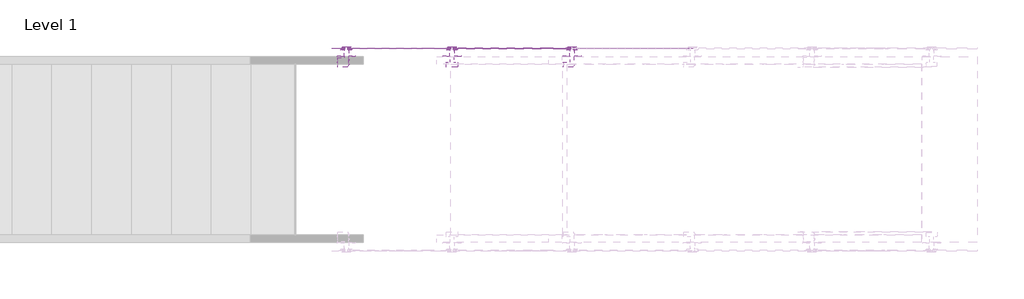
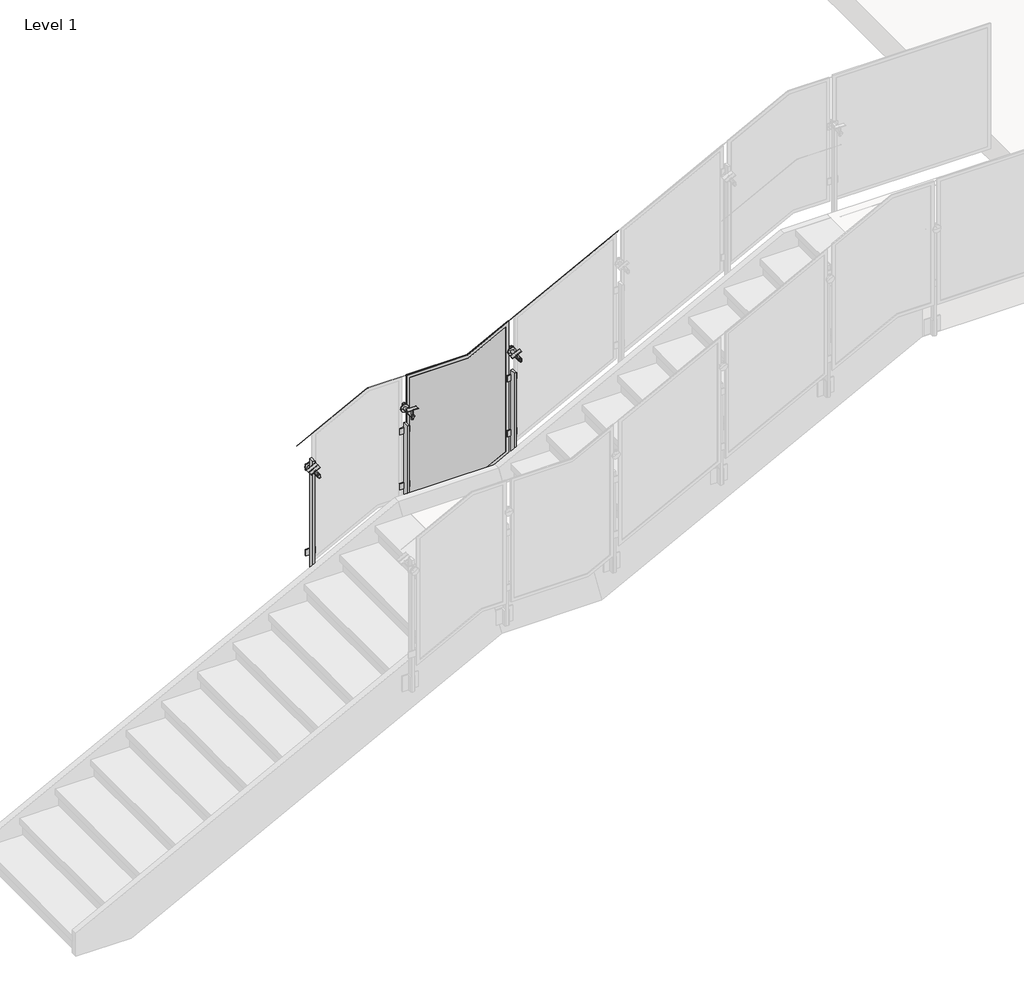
# One storey, part 18 of 28: 2 railings.
"""IFC4 building model written with IfcOpenShell, lengths in millimetres."""

from ifc_helpers import new_model, si_unit, point, frame, frame_2d, origin, place, context, project, spatial, polyline, circle_curve, ellipse_curve, trimmed, segment, composite_curve, outline, extrude, transform, mapped, element, save
from ifc_brep_helpers import plane_surface, cylinder_surface, advanced_brep
from components import standard_pp01_723a6c8f

model = new_model("IFC4")

# Units and contexts
model_context = context("Model", 3, world=origin())
ifc_project = project(units=[si_unit("LENGTHUNIT", "METRE", prefix="MILLI")], contexts=[model_context])

# Site, building, storey
site = spatial("IfcSite", under=ifc_project)
building = spatial("IfcBuilding", under=site)
storey = spatial("IfcBuildingStorey", under=building, Name="Level 1", Elevation=0.0)

# Railings
placement = place(None, origin())
element("IfcRailing", 1, ObjectType="Metal-Panel-VIVA-STRUC-Fascia-Stairs-Landing", at=placement, inside=storey, context=model_context, shape_type="SolidModel", body=[
    advanced_brep(
    [(-16484.3313244, -2552.3953206, 2533.6638324), (-16484.3313244, -2551.3953206, 2533.6638324), (-15931.7592018, -2552.3953206, 2820.7142857), (-15931.7592018, -2551.3953206, 2820.7142857), (-15144.3592018, -2552.3953206, 2820.7142857), (-15144.3592018, -2551.3953206, 2820.7142857), (-13959.1395244, -2552.3953206, 3436.4128194), (-13959.1395244, -2551.3953206, 3436.4128194)],
    [
        (0, 1, ellipse_curve(frame((-16484.3313244, -2551.8953206, 2533.6638324), z_axis=(-1.0, 0.0, 0.0), x_axis=(0.0, 0.0, -1.0)), 0.5634403, 0.5)),
        (1, 0, ellipse_curve(frame((-16484.3313244, -2551.8953206, 2533.6638324), z_axis=(-1.0, 0.0, 0.0), x_axis=(0.0, 0.0, -1.0)), 0.5634403, 0.5)),
        (0, 2),
        (2, 3, ellipse_curve(frame((-15931.7592018, -2551.8953206, 2820.7142857), z_axis=(-0.9714436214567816, 0.0, -0.23727050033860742), x_axis=(0.23727050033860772, 0.0, -0.9714436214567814)), 0.5146979, 0.5)),
        (3, 1),
        (3, 2, ellipse_curve(frame((-15931.7592018, -2551.8953206, 2820.7142857), z_axis=(-0.9714436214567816, 0.0, -0.23727050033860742), x_axis=(0.23727050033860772, 0.0, -0.9714436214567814)), 0.5146979, 0.5)),
        (2, 4),
        (4, 5, ellipse_curve(frame((-15144.3592018, -2551.8953206, 2820.7142857), z_axis=(-0.9714436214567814, 0.0, -0.2372705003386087), x_axis=(-0.23727050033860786, 0.0, 0.9714436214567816)), 0.5146979, 0.5)),
        (5, 3),
        (5, 4, ellipse_curve(frame((-15144.3592018, -2551.8953206, 2820.7142857), z_axis=(-0.9714436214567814, 0.0, -0.2372705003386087), x_axis=(-0.23727050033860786, 0.0, 0.9714436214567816)), 0.5146979, 0.5)),
        (6, 7, ellipse_curve(frame((-13959.1395244, -2551.8953206, 3436.4128194), z_axis=(1.0, 0.0, 0.0), x_axis=(0.0, 0.0, -1.0)), 0.5634403, 0.5)),
        (7, 6, ellipse_curve(frame((-13959.1395244, -2551.8953206, 3436.4128194), z_axis=(1.0, 0.0, 0.0), x_axis=(0.0, 0.0, -1.0)), 0.5634403, 0.5)),
        (4, 6),
        (7, 5),
    ],
    [
        plane_surface(frame((-16484.3313244, -2551.8953206, 2534.2272727), z_axis=(-1.0, 0.0, 0.0), x_axis=(0.0, 1.0, 0.0))),
        cylinder_surface(frame((-16484.1008295, -2551.8953206, 2533.78357), z_axis=(-0.8874054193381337, 0.0, -0.46098982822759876), x_axis=(0.0, 1.0, 0.0)), 0.5),
        cylinder_surface(frame((-15931.8813244, -2551.8953206, 2820.7142857), z_axis=(-1.0, 0.0, 0.0), x_axis=(0.0, 1.0, 0.0)), 0.5),
        plane_surface(frame((-13959.1395244, -2551.8953206, 3436.9762597), z_axis=(1.0, 0.0, 0.0), x_axis=(0.0, 1.0, 0.0))),
        cylinder_surface(frame((-15144.2508295, -2551.8953206, 2820.770583), z_axis=(-0.8874054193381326, 0.0, -0.46098982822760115), x_axis=(0.0, 1.0, 0.0)), 0.5),
    ],
    [
        (0, [[1, 2]]),
        (1, [[-1, 3, 4, 5]]),
        (1, [[-2, -5, 6, -3]]),
        (2, [[-4, 7, 8, 9]]),
        (2, [[-6, -9, 10, -7]]),
        (3, [[11, 12]]),
        (4, [[-8, 13, -12, 14]]),
        (4, [[-10, -14, -11, -13]]),
    ],
),
    extrude(outline(composite_curve([segment(trimmed(circle_curve(frame_2d((19.0451472, -1e-07)), 22.0448871), [point((-2.9997401, 0.0))], [point((24.3499072, 21.3971159))], False, "CARTESIAN"), True, "CONTINUOUS"), segment(polyline([(24.3499072, 21.3971159), (23.6280664, 18.4855208)]), True, "CONTINUOUS"), segment(trimmed(circle_curve(frame_2d((19.0451472, -1e-07)), 19.0451471), [point((23.6280664, 18.4855208))], [point((0.0, 0.0))], True, "CARTESIAN"), True, "CONTINUOUS"), segment(polyline([(0.0, 0.0), (-2.9997401, 0.0)]), True, "CONTINUOUS")], self_intersect=False)), frame((-14863.3578349, -2650.6589206, 2771.6798072), z_axis=(0.8874054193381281, 0.0, 0.4609898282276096), x_axis=(-0.2840545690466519, -0.7876022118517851, 0.5468050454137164)), (0.0, 0.0, 1.0), 79.1184357),
    advanced_brep(
    [(-14788.4729468, -2665.6589206, 2713.3400434), (-14788.4729468, -2658.5151706, 2713.3400434), (-14788.4729468, -2672.8026706, 2713.3400434), (-14824.3321931, -2658.5151706, 2782.3690925), (-14824.3321931, -2665.6589206, 2782.3690925), (-14824.3321931, -2672.8026706, 2782.3690925)],
    [
        (0, 1),
        (1, 2, circle_curve(frame((-14788.4729468, -2665.6589206, 2713.3400434), z_axis=(0.4609898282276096, 0.0, -0.8874054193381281), x_axis=(0.0, -1.0, 0.0)), 7.14375)),
        (2, 0),
        (3, 4),
        (4, 5),
        (5, 3, circle_curve(frame((-14824.3321931, -2665.6589206, 2782.3690925), z_axis=(-0.4609898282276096, 0.0, 0.8874054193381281), x_axis=(0.0, -1.0, 0.0)), 7.14375)),
        (2, 1, circle_curve(frame((-14788.4729468, -2665.6589206, 2713.3400434), z_axis=(0.4609898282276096, 0.0, -0.8874054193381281), x_axis=(0.0, -1.0, 0.0)), 7.14375)),
        (3, 5, circle_curve(frame((-14824.3321931, -2665.6589206, 2782.3690925), z_axis=(-0.4609898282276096, 0.0, 0.8874054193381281), x_axis=(0.0, -1.0, 0.0)), 7.14375)),
        (1, 3),
        (5, 2),
    ],
    [
        plane_surface(frame((-14788.4729468, -2665.6589206, 2713.3400434), z_axis=(0.4609898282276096, 0.0, -0.8874054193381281), x_axis=(0.0, -1.0, 0.0))),
        plane_surface(frame((-14824.3321931, -2665.6589206, 2782.3690925), z_axis=(-0.4609898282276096, 0.0, 0.8874054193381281), x_axis=(0.0, -1.0, 0.0))),
        cylinder_surface(frame((-14671.5187469, -2665.6589206, 2488.2032087), z_axis=(0.4609898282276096, 0.0, -0.8874054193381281), x_axis=(0.0, -1.0, 0.0)), 7.14375),
    ],
    [
        (0, [[1, 2, 3]]),
        (1, [[4, 5, 6]]),
        (0, [[-3, 7, -1]]),
        (1, [[-5, -4, 8]]),
        (2, [[9, -6, 10, -2]]),
        (2, [[-10, -8, -9, -7]]),
    ],
),
    advanced_brep(
    [(-14774.1037585, -2546.9139206, 2751.1092161), (-14795.2351, -2546.9139206, 2740.1318958), (-14806.5051488, -2546.9139206, 2734.277325), (-14827.6364904, -2546.9139206, 2723.3000047), (-14774.1037585, -2538.9764206, 2751.1092161), (-14827.6364904, -2538.9764206, 2723.3000047), (-14774.1037585, -2564.3764206, 2751.1092161), (-14789.6000756, -2564.3764206, 2743.0591812), (-14812.1401733, -2564.3764206, 2731.3500396), (-14827.6364904, -2564.3764206, 2723.3000047), (-14774.1037585, -2556.4389206, 2751.1092161), (-14827.6364904, -2556.4389206, 2723.3000047), (-14800.8701244, -2538.9764206, 2737.2046104), (-14789.6000756, -2676.3776643, 2743.0591812), (-14800.8701244, -2676.3776643, 2737.2046104), (-14812.1401733, -2676.3776643, 2731.3500396), (-14795.2351, -2556.4389206, 2740.1318958), (-14806.5051488, -2556.4389206, 2734.277325)],
    [
        (0, 1),
        (1, 2, circle_curve(frame((-14800.8701244, -2546.9139206, 2737.2046104), z_axis=(0.0, 1.0, 0.0), x_axis=(-0.8874054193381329, 0.0, -0.4609898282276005)), 6.35)),
        (2, 3),
        (3, 0, circle_curve(frame((-14800.8701244, -2546.9139206, 2737.2046104), z_axis=(0.0, -1.0, 0.0), x_axis=(-0.8874054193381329, 0.0, -0.4609898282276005)), 30.1625)),
        (4, 0),
        (3, 5),
        (5, 4, circle_curve(frame((-14800.8701244, -2538.9764206, 2737.2046104), z_axis=(0.0, -1.0, 0.0), x_axis=(-0.8874054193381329, 0.0, -0.4609898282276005)), 30.1625)),
        (6, 7),
        (7, 8, circle_curve(frame((-14800.8701244, -2564.3764206, 2737.2046104), z_axis=(0.0, 1.0, 0.0), x_axis=(-0.8874054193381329, 0.0, -0.4609898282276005)), 12.7)),
        (8, 9),
        (9, 6, circle_curve(frame((-14800.8701244, -2564.3764206, 2737.2046104), z_axis=(0.0, -1.0, 0.0), x_axis=(-0.8874054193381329, 0.0, -0.4609898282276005)), 30.1625)),
        (10, 6),
        (9, 11),
        (11, 10, circle_curve(frame((-14800.8701244, -2556.4389206, 2737.2046104), z_axis=(0.0, -1.0, 0.0), x_axis=(-0.8874054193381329, 0.0, -0.4609898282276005)), 30.1625)),
        (3, 0, circle_curve(frame((-14800.8701244, -2546.9139206, 2737.2046104), z_axis=(0.0, 1.0, 0.0), x_axis=(-0.8874054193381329, 0.0, -0.4609898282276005)), 30.1625)),
        (4, 5, circle_curve(frame((-14800.8701244, -2538.9764206, 2737.2046104), z_axis=(0.0, -1.0, 0.0), x_axis=(-0.8874054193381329, 0.0, -0.4609898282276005)), 30.1625)),
        (12, 4),
        (5, 12),
        (13, 14),
        (14, 15),
        (15, 13, circle_curve(frame((-14800.8701244, -2676.3776643, 2737.2046104), z_axis=(0.0, -1.0, 0.0), x_axis=(-0.8874054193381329, 0.0, -0.4609898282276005)), 12.7)),
        (13, 15, circle_curve(frame((-14800.8701244, -2676.3776643, 2737.2046104), z_axis=(0.0, -1.0, 0.0), x_axis=(-0.8874054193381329, 0.0, -0.4609898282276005)), 12.7)),
        (7, 13),
        (15, 8),
        (7, 8, circle_curve(frame((-14800.8701244, -2564.3764206, 2737.2046104), z_axis=(0.0, -1.0, 0.0), x_axis=(-0.8874054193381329, 0.0, -0.4609898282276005)), 12.7)),
        (6, 9, circle_curve(frame((-14800.8701244, -2564.3764206, 2737.2046104), z_axis=(0.0, -1.0, 0.0), x_axis=(-0.8874054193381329, 0.0, -0.4609898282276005)), 30.1625)),
        (10, 11, circle_curve(frame((-14800.8701244, -2556.4389206, 2737.2046104), z_axis=(0.0, -1.0, 0.0), x_axis=(-0.8874054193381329, 0.0, -0.4609898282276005)), 30.1625)),
        (16, 10),
        (11, 17),
        (17, 16, circle_curve(frame((-14800.8701244, -2556.4389206, 2737.2046104), z_axis=(0.0, -1.0, 0.0), x_axis=(-0.8874054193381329, 0.0, -0.4609898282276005)), 6.35)),
        (16, 17, circle_curve(frame((-14800.8701244, -2556.4389206, 2737.2046104), z_axis=(0.0, -1.0, 0.0), x_axis=(-0.8874054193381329, 0.0, -0.4609898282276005)), 6.35)),
        (1, 16),
        (17, 2),
        (1, 2, circle_curve(frame((-14800.8701244, -2546.9139206, 2737.2046104), z_axis=(0.0, -1.0, 0.0), x_axis=(-0.8874054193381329, 0.0, -0.4609898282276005)), 6.35)),
    ],
    [
        plane_surface(frame((-14800.8701244, -2546.9139206, 2737.2046104), z_axis=(0.0, -1.0, 0.0), x_axis=(-0.8874054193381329, 0.0, -0.4609898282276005))),
        cylinder_surface(frame((-14800.8701244, -1032.4389206, 2737.2046104), z_axis=(0.0, 1.0, 0.0), x_axis=(-0.8874054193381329, 0.0, -0.4609898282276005)), 30.1625),
        plane_surface(frame((-14800.8701244, -2564.3764206, 2737.2046104), z_axis=(0.0, -1.0, 0.0), x_axis=(-0.8874054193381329, 0.0, -0.4609898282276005))),
        plane_surface(frame((-14800.8701244, -2538.9764206, 2737.2046104), z_axis=(0.0, 1.0, 0.0), x_axis=(-0.8874054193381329, 0.0, -0.4609898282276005))),
        plane_surface(frame((-14800.8701244, -2676.3776643, 2737.2046104), z_axis=(0.0, -1.0, 0.0), x_axis=(-0.8874054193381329, 0.0, -0.4609898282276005))),
        cylinder_surface(frame((-14800.8701244, -1032.4389206, 2737.2046104), z_axis=(0.0, 1.0, 0.0), x_axis=(-0.8874054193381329, 0.0, -0.4609898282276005)), 12.7),
        plane_surface(frame((-14800.8701244, -2556.4389206, 2737.2046104), z_axis=(0.0, 1.0, 0.0), x_axis=(-0.8874054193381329, 0.0, -0.4609898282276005))),
        cylinder_surface(frame((-14800.8701244, -1032.4389206, 2737.2046104), z_axis=(0.0, 1.0, 0.0), x_axis=(-0.8874054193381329, 0.0, -0.4609898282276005)), 6.35),
    ],
    [
        (0, [[1, 2, 3, 4]]),
        (1, [[5, -4, 6, 7]]),
        (2, [[8, 9, 10, 11]]),
        (1, [[12, -11, 13, 14]]),
        (1, [[-6, 15, -5, 16]]),
        (3, [[17, -7, 18]]),
        (3, [[-18, -16, -17]]),
        (4, [[19, 20, 21]]),
        (4, [[-20, -19, 22]]),
        (5, [[23, -21, 24, -9]]),
        (5, [[-24, -22, -23, 25]]),
        (2, [[-10, -25, -8, 26]]),
        (1, [[-13, -26, -12, 27]]),
        (6, [[28, -14, 29, 30]]),
        (6, [[-29, -27, -28, 31]]),
        (7, [[32, -30, 33, -2]]),
        (7, [[-33, -31, -32, 34]]),
        (0, [[-3, -34, -1, -15]]),
    ],
),
    extrude(outline(polyline([(-14838.9708437, -2563.5509206), (-14838.9708437, -2556.4389206), (-14762.7694052, -2556.4389206), (-14762.7694052, -2563.5509206), (-14838.9708437, -2563.5509206)])), frame((0.0, 0.0, 2495.8221429), z_axis=(0.0, 0.0, 1.0), x_axis=(1.0, 0.0, 0.0)), (0.0, 0.0, 1.0), 50.8),
    extrude(outline(polyline([(-14838.9708437, -2563.5509206), (-14838.9708437, -2556.4389206), (-14762.7694052, -2556.4389206), (-14762.7694052, -2563.5509206), (-14838.9708437, -2563.5509206)])), frame((0.0, 0.0, 2038.6221429), z_axis=(0.0, 0.0, 1.0), x_axis=(1.0, 0.0, 0.0)), (0.0, 0.0, 1.0), 50.8),
    extrude(outline(polyline([(-14792.9347161, -2569.3929206), (-14784.9337161, -2569.3929206), (-14784.9337161, -2603.1749206), (-14737.3741945, -2603.1749206), (-14737.3741945, -2611.3029206), (-14792.9347161, -2611.3029206), (-14792.9347161, -2569.3929206)])), frame((0.0, 0.0, 1743.2709429), z_axis=(0.0, 0.0, 1.0), x_axis=(1.0, 0.0, 0.0)), (0.0, 0.0, 1.0), 127.0),
    extrude(outline(polyline([(-14808.8097161, -2569.3929206), (-14808.8097161, -2611.3029206), (-14864.3702376, -2611.3029206), (-14864.3702376, -2603.1749206), (-14816.8107161, -2603.1749206), (-14816.8107161, -2569.3929206), (-14808.8097161, -2569.3929206)])), frame((0.0, 0.0, 1743.2709429), z_axis=(0.0, 0.0, 1.0), x_axis=(1.0, 0.0, 0.0)), (0.0, 0.0, 1.0), 127.0),
    extrude(outline(polyline([(-14808.8097161, -2608.0009206), (-14808.8097161, -2563.5509206), (-14792.9305328, -2563.5509206), (-14792.9305328, -2608.0009206), (-14808.8097161, -2608.0009206)])), frame((0.0, 0.0, 1743.2709429), z_axis=(0.0, 0.0, 1.0), x_axis=(1.0, 0.0, 0.0)), (0.0, 0.0, 1.0), 842.9752),
    extrude(outline(composite_curve([segment(trimmed(circle_curve(frame_2d((-2665.6589206, 2629.8402766)), 22.0448871), [point((-2648.2963187, 2616.2565693))], [point((-2683.0215224, 2616.2565693))], False, "CARTESIAN"), True, "CONTINUOUS"), segment(polyline([(-2683.0215224, 2616.2565693), (-2680.6589206, 2618.1049611)]), True, "CONTINUOUS"), segment(trimmed(circle_curve(frame_2d((-2665.6589206, 2629.8402766)), 19.0451471), [point((-2680.6589206, 2618.1049611))], [point((-2650.6589206, 2618.1049611))], True, "CARTESIAN"), True, "CONTINUOUS"), segment(polyline([(-2650.6589206, 2618.1049611), (-2648.2963187, 2616.2565693)]), True, "CONTINUOUS")], self_intersect=False)), frame((-15682.1599423, 0.0, 0.0), z_axis=(1.0, 0.0, 0.0), x_axis=(0.0, 1.0, 0.0)), (0.0, 0.0, 1.0), 79.1184357),
    advanced_brep(
    [(-15642.6007244, -2665.6589206, 2531.8127669), (-15642.6007244, -2658.5151706, 2531.8127669), (-15642.6007244, -2672.8026706, 2531.8127669), (-15642.6007244, -2658.5151706, 2609.6002669), (-15642.6007244, -2665.6589206, 2609.6002669), (-15642.6007244, -2672.8026706, 2609.6002669)],
    [
        (0, 1),
        (1, 2, circle_curve(frame((-15642.6007244, -2665.6589206, 2531.8127669), z_axis=(0.0, 0.0, -1.0), x_axis=(0.0, -1.0, 0.0)), 7.14375)),
        (2, 0),
        (3, 4),
        (4, 5),
        (5, 3, circle_curve(frame((-15642.6007244, -2665.6589206, 2609.6002669), z_axis=(0.0, 0.0, 1.0), x_axis=(0.0, -1.0, 0.0)), 7.14375)),
        (2, 1, circle_curve(frame((-15642.6007244, -2665.6589206, 2531.8127669), z_axis=(0.0, 0.0, -1.0), x_axis=(0.0, -1.0, 0.0)), 7.14375)),
        (3, 5, circle_curve(frame((-15642.6007244, -2665.6589206, 2609.6002669), z_axis=(0.0, 0.0, 1.0), x_axis=(0.0, -1.0, 0.0)), 7.14375)),
        (1, 3),
        (5, 2),
    ],
    [
        plane_surface(frame((-15642.6007244, -2665.6589206, 2531.8127669), z_axis=(0.0, 0.0, -1.0), x_axis=(0.0, -1.0, 0.0))),
        plane_surface(frame((-15642.6007244, -2665.6589206, 2609.6002669), z_axis=(0.0, 0.0, 1.0), x_axis=(0.0, -1.0, 0.0))),
        cylinder_surface(frame((-15642.6007244, -2665.6589206, 2278.1104231), z_axis=(0.0, 0.0, -1.0), x_axis=(0.0, -1.0, 0.0)), 7.14375),
    ],
    [
        (0, [[1, 2, 3]]),
        (1, [[4, 5, 6]]),
        (0, [[-3, 7, -1]]),
        (1, [[-5, -4, 8]]),
        (2, [[9, -6, 10, -2]]),
        (2, [[-10, -8, -9, -7]]),
    ],
),
    advanced_brep(
    [(-15612.4382244, -2546.9139206, 2558.7052857), (-15636.2507244, -2546.9139206, 2558.7052857), (-15648.9507244, -2546.9139206, 2558.7052857), (-15672.7632244, -2546.9139206, 2558.7052857), (-15612.4382244, -2538.9764206, 2558.7052857), (-15672.7632244, -2538.9764206, 2558.7052857), (-15612.4382244, -2564.3764206, 2558.7052857), (-15629.9007244, -2564.3764206, 2558.7052857), (-15655.3007244, -2564.3764206, 2558.7052857), (-15672.7632244, -2564.3764206, 2558.7052857), (-15612.4382244, -2556.4389206, 2558.7052857), (-15672.7632244, -2556.4389206, 2558.7052857), (-15642.6007244, -2538.9764206, 2558.7052857), (-15629.9007244, -2676.3776643, 2558.7052857), (-15642.6007244, -2676.3776643, 2558.7052857), (-15655.3007244, -2676.3776643, 2558.7052857), (-15636.2507244, -2556.4389206, 2558.7052857), (-15648.9507244, -2556.4389206, 2558.7052857)],
    [
        (0, 1),
        (1, 2, circle_curve(frame((-15642.6007244, -2546.9139206, 2558.7052857), z_axis=(0.0, 1.0, 0.0), x_axis=(-1.0, 0.0, 0.0)), 6.35)),
        (2, 3),
        (3, 0, circle_curve(frame((-15642.6007244, -2546.9139206, 2558.7052857), z_axis=(0.0, -1.0, 0.0), x_axis=(-1.0, 0.0, 0.0)), 30.1625)),
        (4, 0),
        (3, 5),
        (5, 4, circle_curve(frame((-15642.6007244, -2538.9764206, 2558.7052857), z_axis=(0.0, -1.0, 0.0), x_axis=(-1.0, 0.0, 0.0)), 30.1625)),
        (6, 7),
        (7, 8, circle_curve(frame((-15642.6007244, -2564.3764206, 2558.7052857), z_axis=(0.0, 1.0, 0.0), x_axis=(-1.0, 0.0, 0.0)), 12.7)),
        (8, 9),
        (9, 6, circle_curve(frame((-15642.6007244, -2564.3764206, 2558.7052857), z_axis=(0.0, -1.0, 0.0), x_axis=(-1.0, 0.0, 0.0)), 30.1625)),
        (10, 6),
        (9, 11),
        (11, 10, circle_curve(frame((-15642.6007244, -2556.4389206, 2558.7052857), z_axis=(0.0, -1.0, 0.0), x_axis=(-1.0, 0.0, 0.0)), 30.1625)),
        (3, 0, circle_curve(frame((-15642.6007244, -2546.9139206, 2558.7052857), z_axis=(0.0, 1.0, 0.0), x_axis=(-1.0, 0.0, 0.0)), 30.1625)),
        (4, 5, circle_curve(frame((-15642.6007244, -2538.9764206, 2558.7052857), z_axis=(0.0, -1.0, 0.0), x_axis=(-1.0, 0.0, 0.0)), 30.1625)),
        (12, 4),
        (5, 12),
        (13, 14),
        (14, 15),
        (15, 13, circle_curve(frame((-15642.6007244, -2676.3776643, 2558.7052857), z_axis=(0.0, -1.0, 0.0), x_axis=(-1.0, 0.0, 0.0)), 12.7)),
        (13, 15, circle_curve(frame((-15642.6007244, -2676.3776643, 2558.7052857), z_axis=(0.0, -1.0, 0.0), x_axis=(-1.0, 0.0, 0.0)), 12.7)),
        (7, 13),
        (15, 8),
        (7, 8, circle_curve(frame((-15642.6007244, -2564.3764206, 2558.7052857), z_axis=(0.0, -1.0, 0.0), x_axis=(-1.0, 0.0, 0.0)), 12.7)),
        (6, 9, circle_curve(frame((-15642.6007244, -2564.3764206, 2558.7052857), z_axis=(0.0, -1.0, 0.0), x_axis=(-1.0, 0.0, 0.0)), 30.1625)),
        (10, 11, circle_curve(frame((-15642.6007244, -2556.4389206, 2558.7052857), z_axis=(0.0, -1.0, 0.0), x_axis=(-1.0, 0.0, 0.0)), 30.1625)),
        (16, 10),
        (11, 17),
        (17, 16, circle_curve(frame((-15642.6007244, -2556.4389206, 2558.7052857), z_axis=(0.0, -1.0, 0.0), x_axis=(-1.0, 0.0, 0.0)), 6.35)),
        (16, 17, circle_curve(frame((-15642.6007244, -2556.4389206, 2558.7052857), z_axis=(0.0, -1.0, 0.0), x_axis=(-1.0, 0.0, 0.0)), 6.35)),
        (1, 16),
        (17, 2),
        (1, 2, circle_curve(frame((-15642.6007244, -2546.9139206, 2558.7052857), z_axis=(0.0, -1.0, 0.0), x_axis=(-1.0, 0.0, 0.0)), 6.35)),
    ],
    [
        plane_surface(frame((-15642.6007244, -2546.9139206, 2558.7052857), z_axis=(0.0, -1.0, 0.0), x_axis=(-1.0, 0.0, 0.0))),
        cylinder_surface(frame((-15642.6007244, -1032.4389206, 2558.7052857), z_axis=(0.0, 1.0, 0.0), x_axis=(-1.0, 0.0, 0.0)), 30.1625),
        plane_surface(frame((-15642.6007244, -2564.3764206, 2558.7052857), z_axis=(0.0, -1.0, 0.0), x_axis=(-1.0, 0.0, 0.0))),
        plane_surface(frame((-15642.6007244, -2538.9764206, 2558.7052857), z_axis=(0.0, 1.0, 0.0), x_axis=(-1.0, 0.0, 0.0))),
        plane_surface(frame((-15642.6007244, -2676.3776643, 2558.7052857), z_axis=(0.0, -1.0, 0.0), x_axis=(-1.0, 0.0, 0.0))),
        cylinder_surface(frame((-15642.6007244, -1032.4389206, 2558.7052857), z_axis=(0.0, 1.0, 0.0), x_axis=(-1.0, 0.0, 0.0)), 12.7),
        plane_surface(frame((-15642.6007244, -2556.4389206, 2558.7052857), z_axis=(0.0, 1.0, 0.0), x_axis=(-1.0, 0.0, 0.0))),
        cylinder_surface(frame((-15642.6007244, -1032.4389206, 2558.7052857), z_axis=(0.0, 1.0, 0.0), x_axis=(-1.0, 0.0, 0.0)), 6.35),
    ],
    [
        (0, [[1, 2, 3, 4]]),
        (1, [[5, -4, 6, 7]]),
        (2, [[8, 9, 10, 11]]),
        (1, [[12, -11, 13, 14]]),
        (1, [[-6, 15, -5, 16]]),
        (3, [[17, -7, 18]]),
        (3, [[-18, -16, -17]]),
        (4, [[19, 20, 21]]),
        (4, [[-20, -19, 22]]),
        (5, [[23, -21, 24, -9]]),
        (5, [[-24, -22, -23, 25]]),
        (2, [[-10, -25, -8, 26]]),
        (1, [[-13, -26, -12, 27]]),
        (6, [[28, -14, 29, 30]]),
        (6, [[-29, -27, -28, 31]]),
        (7, [[32, -30, 33, -2]]),
        (7, [[-33, -31, -32, 34]]),
        (0, [[-3, -34, -1, -15]]),
    ],
),
    extrude(outline(polyline([(-15680.7014437, -2563.5509206), (-15680.7014437, -2556.4389206), (-15604.5000052, -2556.4389206), (-15604.5000052, -2563.5509206), (-15680.7014437, -2563.5509206)])), frame((0.0, 0.0, 2350.6792857), z_axis=(0.0, 0.0, 1.0), x_axis=(1.0, 0.0, 0.0)), (0.0, 0.0, 1.0), 50.8),
    extrude(outline(polyline([(-15680.7014437, -2563.5509206), (-15680.7014437, -2556.4389206), (-15604.5000052, -2556.4389206), (-15604.5000052, -2563.5509206), (-15680.7014437, -2563.5509206)])), frame((0.0, 0.0, 1893.4792857), z_axis=(0.0, 0.0, 1.0), x_axis=(1.0, 0.0, 0.0)), (0.0, 0.0, 1.0), 50.8),
    extrude(outline(polyline([(-15634.6653161, -2569.3929206), (-15626.6643161, -2569.3929206), (-15626.6643161, -2603.1749206), (-15579.1047945, -2603.1749206), (-15579.1047945, -2611.3029206), (-15634.6653161, -2611.3029206), (-15634.6653161, -2569.3929206)])), frame((0.0, 0.0, 1598.1280857), z_axis=(0.0, 0.0, 1.0), x_axis=(1.0, 0.0, 0.0)), (0.0, 0.0, 1.0), 127.0),
    extrude(outline(polyline([(-15650.5403161, -2569.3929206), (-15650.5403161, -2611.3029206), (-15706.1008376, -2611.3029206), (-15706.1008376, -2603.1749206), (-15658.5413161, -2603.1749206), (-15658.5413161, -2569.3929206), (-15650.5403161, -2569.3929206)])), frame((0.0, 0.0, 1598.1280857), z_axis=(0.0, 0.0, 1.0), x_axis=(1.0, 0.0, 0.0)), (0.0, 0.0, 1.0), 127.0),
    extrude(outline(polyline([(-15650.5403161, -2608.0009206), (-15650.5403161, -2563.5509206), (-15634.6611328, -2563.5509206), (-15634.6611328, -2608.0009206), (-15650.5403161, -2608.0009206)])), frame((0.0, 0.0, 1598.1280857), z_axis=(0.0, 0.0, 1.0), x_axis=(1.0, 0.0, 0.0)), (0.0, 0.0, 1.0), 842.9752),
    extrude(outline(composite_curve([segment(trimmed(circle_curve(frame_2d((19.0451472, -1e-07)), 22.0448871), [point((-2.99974, -1e-07))], [point((24.3499072, 21.3971158))], False, "CARTESIAN"), True, "CONTINUOUS"), segment(polyline([(24.3499072, 21.3971158), (23.6280664, 18.4855208)]), True, "CONTINUOUS"), segment(trimmed(circle_curve(frame_2d((19.0451472, -1e-07)), 19.0451471), [point((23.6280664, 18.4855208))], [point((0.0, 0.0))], True, "CARTESIAN"), True, "CONTINUOUS"), segment(polyline([(0.0, 0.0), (-2.99974, -1e-07)]), True, "CONTINUOUS")], self_intersect=False)), frame((-16445.2190349, -2650.6589206, 2358.9726903), z_axis=(0.8874054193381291, 0.0, 0.46098982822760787), x_axis=(-0.2840545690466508, -0.7876022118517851, 0.546805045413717)), (0.0, 0.0, 1.0), 79.1184357),
    advanced_brep(
    [(-16370.3341468, -2665.6589206, 2300.6329266), (-16370.3341468, -2658.5151706, 2300.6329266), (-16370.3341468, -2672.8026706, 2300.6329266), (-16406.1933931, -2658.5151706, 2369.6619756), (-16406.1933931, -2665.6589206, 2369.6619756), (-16406.1933931, -2672.8026706, 2369.6619756)],
    [
        (0, 1),
        (1, 2, circle_curve(frame((-16370.3341468, -2665.6589206, 2300.6329266), z_axis=(0.4609898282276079, 0.0, -0.8874054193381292), x_axis=(0.0, -1.0, 0.0)), 7.14375)),
        (2, 0),
        (3, 4),
        (4, 5),
        (5, 3, circle_curve(frame((-16406.1933931, -2665.6589206, 2369.6619756), z_axis=(-0.4609898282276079, 0.0, 0.8874054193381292), x_axis=(0.0, -1.0, 0.0)), 7.14375)),
        (2, 1, circle_curve(frame((-16370.3341468, -2665.6589206, 2300.6329266), z_axis=(0.4609898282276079, 0.0, -0.8874054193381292), x_axis=(0.0, -1.0, 0.0)), 7.14375)),
        (3, 5, circle_curve(frame((-16406.1933931, -2665.6589206, 2369.6619756), z_axis=(-0.4609898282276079, 0.0, 0.8874054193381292), x_axis=(0.0, -1.0, 0.0)), 7.14375)),
        (1, 3),
        (5, 2),
    ],
    [
        plane_surface(frame((-16370.3341468, -2665.6589206, 2300.6329266), z_axis=(0.46098982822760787, 0.0, -0.8874054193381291), x_axis=(0.0, -1.0, 0.0))),
        plane_surface(frame((-16406.1933931, -2665.6589206, 2369.6619756), z_axis=(-0.46098982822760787, 0.0, 0.8874054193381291), x_axis=(0.0, -1.0, 0.0))),
        cylinder_surface(frame((-16253.3799469, -2665.6589206, 2075.4960918), z_axis=(0.4609898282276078, 0.0, -0.887405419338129), x_axis=(0.0, -1.0, 0.0)), 7.14375),
    ],
    [
        (0, [[1, 2, 3]]),
        (1, [[4, 5, 6]]),
        (0, [[-3, 7, -1]]),
        (1, [[-5, -4, 8]]),
        (2, [[9, -6, 10, -2]]),
        (2, [[-10, -8, -9, -7]]),
    ],
),
    advanced_brep(
    [(-16355.9649585, -2546.9139206, 2338.4020992), (-16377.0963, -2546.9139206, 2327.4247789), (-16388.3663488, -2546.9139206, 2321.5702081), (-16409.4976904, -2546.9139206, 2310.5928878), (-16355.9649585, -2538.9764206, 2338.4020992), (-16409.4976904, -2538.9764206, 2310.5928878), (-16355.9649585, -2564.3764206, 2338.4020992), (-16371.4612756, -2564.3764206, 2330.3520643), (-16394.0013733, -2564.3764206, 2318.6429227), (-16409.4976904, -2564.3764206, 2310.5928878), (-16355.9649585, -2556.4389206, 2338.4020992), (-16409.4976904, -2556.4389206, 2310.5928878), (-16382.7313244, -2538.9764206, 2324.4974935), (-16371.4612756, -2676.3776643, 2330.3520643), (-16382.7313244, -2676.3776643, 2324.4974935), (-16394.0013733, -2676.3776643, 2318.6429227), (-16377.0963, -2556.4389206, 2327.4247789), (-16388.3663488, -2556.4389206, 2321.5702081)],
    [
        (0, 1),
        (1, 2, circle_curve(frame((-16382.7313244, -2546.9139206, 2324.4974935), z_axis=(0.0, 1.0, 0.0), x_axis=(-0.8874054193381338, 0.0, -0.4609898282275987)), 6.35)),
        (2, 3),
        (3, 0, circle_curve(frame((-16382.7313244, -2546.9139206, 2324.4974935), z_axis=(0.0, -1.0, 0.0), x_axis=(-0.8874054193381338, 0.0, -0.4609898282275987)), 30.1625)),
        (4, 0),
        (3, 5),
        (5, 4, circle_curve(frame((-16382.7313244, -2538.9764206, 2324.4974935), z_axis=(0.0, -1.0, 0.0), x_axis=(-0.8874054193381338, 0.0, -0.4609898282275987)), 30.1625)),
        (6, 7),
        (7, 8, circle_curve(frame((-16382.7313244, -2564.3764206, 2324.4974935), z_axis=(0.0, 1.0, 0.0), x_axis=(-0.8874054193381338, 0.0, -0.4609898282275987)), 12.7)),
        (8, 9),
        (9, 6, circle_curve(frame((-16382.7313244, -2564.3764206, 2324.4974935), z_axis=(0.0, -1.0, 0.0), x_axis=(-0.8874054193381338, 0.0, -0.4609898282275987)), 30.1625)),
        (10, 6),
        (9, 11),
        (11, 10, circle_curve(frame((-16382.7313244, -2556.4389206, 2324.4974935), z_axis=(0.0, -1.0, 0.0), x_axis=(-0.8874054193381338, 0.0, -0.4609898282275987)), 30.1625)),
        (3, 0, circle_curve(frame((-16382.7313244, -2546.9139206, 2324.4974935), z_axis=(0.0, 1.0, 0.0), x_axis=(-0.8874054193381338, 0.0, -0.4609898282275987)), 30.1625)),
        (4, 5, circle_curve(frame((-16382.7313244, -2538.9764206, 2324.4974935), z_axis=(0.0, -1.0, 0.0), x_axis=(-0.8874054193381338, 0.0, -0.4609898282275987)), 30.1625)),
        (12, 4),
        (5, 12),
        (13, 14),
        (14, 15),
        (15, 13, circle_curve(frame((-16382.7313244, -2676.3776643, 2324.4974935), z_axis=(0.0, -1.0, 0.0), x_axis=(-0.8874054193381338, 0.0, -0.4609898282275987)), 12.7)),
        (13, 15, circle_curve(frame((-16382.7313244, -2676.3776643, 2324.4974935), z_axis=(0.0, -1.0, 0.0), x_axis=(-0.8874054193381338, 0.0, -0.4609898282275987)), 12.7)),
        (7, 13),
        (15, 8),
        (7, 8, circle_curve(frame((-16382.7313244, -2564.3764206, 2324.4974935), z_axis=(0.0, -1.0, 0.0), x_axis=(-0.8874054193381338, 0.0, -0.4609898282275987)), 12.7)),
        (6, 9, circle_curve(frame((-16382.7313244, -2564.3764206, 2324.4974935), z_axis=(0.0, -1.0, 0.0), x_axis=(-0.8874054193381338, 0.0, -0.4609898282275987)), 30.1625)),
        (10, 11, circle_curve(frame((-16382.7313244, -2556.4389206, 2324.4974935), z_axis=(0.0, -1.0, 0.0), x_axis=(-0.8874054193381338, 0.0, -0.4609898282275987)), 30.1625)),
        (16, 10),
        (11, 17),
        (17, 16, circle_curve(frame((-16382.7313244, -2556.4389206, 2324.4974935), z_axis=(0.0, -1.0, 0.0), x_axis=(-0.8874054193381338, 0.0, -0.4609898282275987)), 6.35)),
        (16, 17, circle_curve(frame((-16382.7313244, -2556.4389206, 2324.4974935), z_axis=(0.0, -1.0, 0.0), x_axis=(-0.8874054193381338, 0.0, -0.4609898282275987)), 6.35)),
        (1, 16),
        (17, 2),
        (1, 2, circle_curve(frame((-16382.7313244, -2546.9139206, 2324.4974935), z_axis=(0.0, -1.0, 0.0), x_axis=(-0.8874054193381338, 0.0, -0.4609898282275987)), 6.35)),
    ],
    [
        plane_surface(frame((-16382.7313244, -2546.9139206, 2324.4974935), z_axis=(0.0, -1.0, 0.0), x_axis=(-0.8874054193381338, 0.0, -0.4609898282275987))),
        cylinder_surface(frame((-16382.7313244, -1032.4389206, 2324.4974935), z_axis=(0.0, 1.0, 0.0), x_axis=(-0.8874054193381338, 0.0, -0.4609898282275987)), 30.1625),
        plane_surface(frame((-16382.7313244, -2564.3764206, 2324.4974935), z_axis=(0.0, -1.0, 0.0), x_axis=(-0.8874054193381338, 0.0, -0.4609898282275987))),
        plane_surface(frame((-16382.7313244, -2538.9764206, 2324.4974935), z_axis=(0.0, 1.0, 0.0), x_axis=(-0.8874054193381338, 0.0, -0.4609898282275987))),
        plane_surface(frame((-16382.7313244, -2676.3776643, 2324.4974935), z_axis=(0.0, -1.0, 0.0), x_axis=(-0.8874054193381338, 0.0, -0.4609898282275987))),
        cylinder_surface(frame((-16382.7313244, -1032.4389206, 2324.4974935), z_axis=(0.0, 1.0, 0.0), x_axis=(-0.8874054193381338, 0.0, -0.4609898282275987)), 12.7),
        plane_surface(frame((-16382.7313244, -2556.4389206, 2324.4974935), z_axis=(0.0, 1.0, 0.0), x_axis=(-0.8874054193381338, 0.0, -0.4609898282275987))),
        cylinder_surface(frame((-16382.7313244, -1032.4389206, 2324.4974935), z_axis=(0.0, 1.0, 0.0), x_axis=(-0.8874054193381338, 0.0, -0.4609898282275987)), 6.35),
    ],
    [
        (0, [[1, 2, 3, 4]]),
        (1, [[5, -4, 6, 7]]),
        (2, [[8, 9, 10, 11]]),
        (1, [[12, -11, 13, 14]]),
        (1, [[-6, 15, -5, 16]]),
        (3, [[17, -7, 18]]),
        (3, [[-18, -16, -17]]),
        (4, [[19, 20, 21]]),
        (4, [[-20, -19, 22]]),
        (5, [[23, -21, 24, -9]]),
        (5, [[-24, -22, -23, 25]]),
        (2, [[-10, -25, -8, 26]]),
        (1, [[-13, -26, -12, 27]]),
        (6, [[28, -14, 29, 30]]),
        (6, [[-29, -27, -28, 31]]),
        (7, [[32, -30, 33, -2]]),
        (7, [[-33, -31, -32, 34]]),
        (0, [[-3, -34, -1, -15]]),
    ],
),
    extrude(outline(polyline([(-16420.8320437, -2563.5509206), (-16420.8320437, -2556.4389206), (-16344.6306052, -2556.4389206), (-16344.6306052, -2563.5509206), (-16420.8320437, -2563.5509206)])), frame((0.0, 0.0, 2314.3935714), z_axis=(0.0, 0.0, 1.0), x_axis=(1.0, 0.0, 0.0)), (0.0, 0.0, 1.0), 50.8),
    extrude(outline(polyline([(-16420.8320437, -2563.5509206), (-16420.8320437, -2556.4389206), (-16344.6306052, -2556.4389206), (-16344.6306052, -2563.5509206), (-16420.8320437, -2563.5509206)])), frame((0.0, 0.0, 1603.1935714), z_axis=(0.0, 0.0, 1.0), x_axis=(1.0, 0.0, 0.0)), (0.0, 0.0, 1.0), 50.8),
    extrude(outline(composite_curve([segment(trimmed(circle_curve(frame_2d((-19.0451472, 1e-07)), 22.0448871), [point((2.99974, 1e-07))], [point((-24.3499072, -21.3971158))], False, "CARTESIAN"), True, "CONTINUOUS"), segment(polyline([(-24.3499072, -21.3971158), (-23.6280664, -18.4855208)]), True, "CONTINUOUS"), segment(trimmed(circle_curve(frame_2d((-19.0451472, 1e-07)), 19.0451471), [point((-23.6280664, -18.4855208))], [point((0.0, 0.0))], True, "CARTESIAN"), True, "CONTINUOUS"), segment(polyline([(0.0, 0.0), (2.99974, 1e-07)]), True, "CONTINUOUS")], self_intersect=False)), frame((-16445.2190349, -2617.6389206, 2358.9726903), z_axis=(0.8874054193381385, 0.0, 0.4609898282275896), x_axis=(0.2840545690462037, 0.7876022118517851, -0.5468050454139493)), (0.0, 0.0, 1.0), 79.1184357),
    advanced_brep(
    [(-16370.3341468, -2632.6389206, 2300.6329266), (-16370.3341468, -2639.7826706, 2300.6329266), (-16370.3341468, -2625.4951706, 2300.6329266), (-16406.1933931, -2625.4951706, 2369.6619756), (-16406.1933931, -2639.7826706, 2369.6619756), (-16406.1933931, -2632.6389206, 2369.6619756)],
    [
        (0, 1),
        (1, 2, circle_curve(frame((-16370.3341468, -2632.6389206, 2300.6329266), z_axis=(0.4609898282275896, 0.0, -0.8874054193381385), x_axis=(0.0, -1.0, 0.0)), 7.14375)),
        (2, 0),
        (3, 4, circle_curve(frame((-16406.1933931, -2632.6389206, 2369.6619756), z_axis=(-0.4609898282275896, 0.0, 0.8874054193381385), x_axis=(0.0, -1.0, 0.0)), 7.14375)),
        (4, 5),
        (5, 3),
        (2, 1, circle_curve(frame((-16370.3341468, -2632.6389206, 2300.6329266), z_axis=(0.4609898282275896, 0.0, -0.8874054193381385), x_axis=(0.0, -1.0, 0.0)), 7.14375)),
        (4, 3, circle_curve(frame((-16406.1933931, -2632.6389206, 2369.6619756), z_axis=(-0.4609898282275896, 0.0, 0.8874054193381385), x_axis=(0.0, -1.0, 0.0)), 7.14375)),
        (1, 4),
        (3, 2),
    ],
    [
        plane_surface(frame((-16370.3341468, -2632.6389206, 2300.6329266), z_axis=(0.4609898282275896, 0.0, -0.8874054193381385), x_axis=(0.0, -1.0, 0.0))),
        plane_surface(frame((-16406.1933931, -2632.6389206, 2369.6619756), z_axis=(-0.4609898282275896, 0.0, 0.8874054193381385), x_axis=(0.0, -1.0, 0.0))),
        cylinder_surface(frame((-16253.3799469, -2632.6389206, 2075.4960918), z_axis=(0.4609898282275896, 0.0, -0.8874054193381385), x_axis=(0.0, -1.0, 0.0)), 7.14375),
    ],
    [
        (0, [[1, 2, 3]]),
        (1, [[4, 5, 6]]),
        (0, [[-3, 7, -1]]),
        (1, [[8, -6, -5]]),
        (2, [[-2, 9, -4, 10]]),
        (2, [[-7, -10, -8, -9]]),
    ],
),
    advanced_brep(
    [(-16409.4976904, -2546.9139206, 2310.5928878), (-16355.9649585, -2546.9139206, 2338.4020992), (-16377.0963, -2546.9139206, 2327.4247789), (-16388.3663488, -2546.9139206, 2321.5702081), (-16409.4976904, -2538.9764206, 2310.5928878), (-16355.9649585, -2538.9764206, 2338.4020992), (-16409.4976904, -2564.3764206, 2310.5928878), (-16355.9649585, -2564.3764206, 2338.4020992), (-16371.4612756, -2564.3764206, 2330.3520643), (-16394.0013733, -2564.3764206, 2318.6429227), (-16409.4976904, -2556.4389206, 2310.5928878), (-16355.9649585, -2556.4389206, 2338.4020992), (-16382.7313244, -2538.9764206, 2324.4974935), (-16394.0013733, -2643.7514206, 2318.6429227), (-16371.4612756, -2643.7514206, 2330.3520643), (-16382.7313244, -2643.7514206, 2324.4974935), (-16388.3663488, -2556.4389206, 2321.5702081), (-16377.0963, -2556.4389206, 2327.4247789)],
    [
        (0, 1, circle_curve(frame((-16382.7313244, -2546.9139206, 2324.4974935), z_axis=(0.0, -1.0, 0.0), x_axis=(0.8874054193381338, 0.0, 0.4609898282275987)), 30.1625)),
        (1, 2),
        (2, 3, circle_curve(frame((-16382.7313244, -2546.9139206, 2324.4974935), z_axis=(0.0, 1.0, 0.0), x_axis=(0.8874054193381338, 0.0, 0.4609898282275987)), 6.35)),
        (3, 0),
        (4, 5, circle_curve(frame((-16382.7313244, -2538.9764206, 2324.4974935), z_axis=(0.0, -1.0, 0.0), x_axis=(0.8874054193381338, 0.0, 0.4609898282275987)), 30.1625)),
        (5, 1),
        (0, 4),
        (6, 7, circle_curve(frame((-16382.7313244, -2564.3764206, 2324.4974935), z_axis=(0.0, -1.0, 0.0), x_axis=(0.8874054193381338, 0.0, 0.4609898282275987)), 30.1625)),
        (7, 8),
        (8, 9, circle_curve(frame((-16382.7313244, -2564.3764206, 2324.4974935), z_axis=(0.0, 1.0, 0.0), x_axis=(0.8874054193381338, 0.0, 0.4609898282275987)), 12.7)),
        (9, 6),
        (10, 11, circle_curve(frame((-16382.7313244, -2556.4389206, 2324.4974935), z_axis=(0.0, -1.0, 0.0), x_axis=(0.8874054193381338, 0.0, 0.4609898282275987)), 30.1625)),
        (11, 7),
        (6, 10),
        (5, 4, circle_curve(frame((-16382.7313244, -2538.9764206, 2324.4974935), z_axis=(0.0, -1.0, 0.0), x_axis=(0.8874054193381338, 0.0, 0.4609898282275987)), 30.1625)),
        (0, 1, circle_curve(frame((-16382.7313244, -2546.9139206, 2324.4974935), z_axis=(0.0, 1.0, 0.0), x_axis=(0.8874054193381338, 0.0, 0.4609898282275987)), 30.1625)),
        (12, 5),
        (4, 12),
        (13, 14, circle_curve(frame((-16382.7313244, -2643.7514206, 2324.4974935), z_axis=(0.0, -1.0, 0.0), x_axis=(0.8874054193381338, 0.0, 0.4609898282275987)), 12.7)),
        (14, 15),
        (15, 13),
        (14, 13, circle_curve(frame((-16382.7313244, -2643.7514206, 2324.4974935), z_axis=(0.0, -1.0, 0.0), x_axis=(0.8874054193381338, 0.0, 0.4609898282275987)), 12.7)),
        (8, 14),
        (13, 9),
        (8, 9, circle_curve(frame((-16382.7313244, -2564.3764206, 2324.4974935), z_axis=(0.0, -1.0, 0.0), x_axis=(0.8874054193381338, 0.0, 0.4609898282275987)), 12.7)),
        (7, 6, circle_curve(frame((-16382.7313244, -2564.3764206, 2324.4974935), z_axis=(0.0, -1.0, 0.0), x_axis=(0.8874054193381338, 0.0, 0.4609898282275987)), 30.1625)),
        (11, 10, circle_curve(frame((-16382.7313244, -2556.4389206, 2324.4974935), z_axis=(0.0, -1.0, 0.0), x_axis=(0.8874054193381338, 0.0, 0.4609898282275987)), 30.1625)),
        (16, 17, circle_curve(frame((-16382.7313244, -2556.4389206, 2324.4974935), z_axis=(0.0, -1.0, 0.0), x_axis=(0.8874054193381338, 0.0, 0.4609898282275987)), 6.35)),
        (17, 11),
        (10, 16),
        (17, 16, circle_curve(frame((-16382.7313244, -2556.4389206, 2324.4974935), z_axis=(0.0, -1.0, 0.0), x_axis=(0.8874054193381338, 0.0, 0.4609898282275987)), 6.35)),
        (2, 17),
        (16, 3),
        (2, 3, circle_curve(frame((-16382.7313244, -2546.9139206, 2324.4974935), z_axis=(0.0, -1.0, 0.0), x_axis=(0.8874054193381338, 0.0, 0.4609898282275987)), 6.35)),
    ],
    [
        plane_surface(frame((-16382.7313244, -2546.9139206, 2324.4974935), z_axis=(0.0, -1.0, 0.0), x_axis=(0.8874054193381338, 0.0, 0.4609898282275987))),
        cylinder_surface(frame((-16382.7313244, -1032.4389206, 2324.4974935), z_axis=(0.0, 1.0, 0.0), x_axis=(0.8874054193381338, 0.0, 0.4609898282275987)), 30.1625),
        plane_surface(frame((-16382.7313244, -2564.3764206, 2324.4974935), z_axis=(0.0, -1.0, 0.0), x_axis=(0.8874054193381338, 0.0, 0.4609898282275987))),
        plane_surface(frame((-16382.7313244, -2538.9764206, 2324.4974935), z_axis=(0.0, 1.0, 0.0), x_axis=(0.8874054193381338, 0.0, 0.4609898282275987))),
        plane_surface(frame((-16382.7313244, -2643.7514206, 2324.4974935), z_axis=(0.0, -1.0, 0.0), x_axis=(0.8874054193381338, 0.0, 0.4609898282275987))),
        cylinder_surface(frame((-16382.7313244, -1032.4389206, 2324.4974935), z_axis=(0.0, 1.0, 0.0), x_axis=(0.8874054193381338, 0.0, 0.4609898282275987)), 12.7),
        plane_surface(frame((-16382.7313244, -2556.4389206, 2324.4974935), z_axis=(0.0, 1.0, 0.0), x_axis=(0.8874054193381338, 0.0, 0.4609898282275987))),
        cylinder_surface(frame((-16382.7313244, -1032.4389206, 2324.4974935), z_axis=(0.0, 1.0, 0.0), x_axis=(0.8874054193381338, 0.0, 0.4609898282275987)), 6.35),
    ],
    [
        (0, [[1, 2, 3, 4]]),
        (1, [[5, 6, -1, 7]]),
        (2, [[8, 9, 10, 11]]),
        (1, [[12, 13, -8, 14]]),
        (1, [[15, -7, 16, -6]]),
        (3, [[17, -5, 18]]),
        (3, [[-18, -15, -17]]),
        (4, [[19, 20, 21]]),
        (4, [[22, -21, -20]]),
        (5, [[-10, 23, -19, 24]]),
        (5, [[25, -24, -22, -23]]),
        (2, [[26, -11, -25, -9]]),
        (1, [[27, -14, -26, -13]]),
        (6, [[28, 29, -12, 30]]),
        (6, [[31, -30, -27, -29]]),
        (7, [[-3, 32, -28, 33]]),
        (7, [[34, -33, -31, -32]]),
        (0, [[-16, -4, -34, -2]]),
    ],
),
    extrude(outline(polyline([(-16374.7959161, -2569.3929206), (-16366.7949161, -2569.3929206), (-16366.7949161, -2603.1749206), (-16319.2353945, -2603.1749206), (-16319.2353945, -2611.3029206), (-16374.7959161, -2611.3029206), (-16374.7959161, -2569.3929206)])), frame((0.0, 0.0, 1307.8423714), z_axis=(0.0, 0.0, 1.0), x_axis=(1.0, 0.0, 0.0)), (0.0, 0.0, 1.0), 127.0),
    extrude(outline(polyline([(-16390.6709161, -2569.3929206), (-16390.6709161, -2611.3029206), (-16446.2314376, -2611.3029206), (-16446.2314376, -2603.1749206), (-16398.6719161, -2603.1749206), (-16398.6719161, -2569.3929206), (-16390.6709161, -2569.3929206)])), frame((0.0, 0.0, 1307.8423714), z_axis=(0.0, 0.0, 1.0), x_axis=(1.0, 0.0, 0.0)), (0.0, 0.0, 1.0), 127.0),
    extrude(outline(polyline([(-16390.6709161, -2608.0009206), (-16390.6709161, -2563.5509206), (-16374.7917328, -2563.5509206), (-16374.7917328, -2608.0009206), (-16390.6709161, -2608.0009206)])), frame((0.0, 0.0, 1307.8423714), z_axis=(0.0, 0.0, 1.0), x_axis=(1.0, 0.0, 0.0)), (0.0, 0.0, 1.0), 1096.9752),
])
standard_pp01_shape = standard_pp01_723a6c8f(model_context)
element("IfcRailing", 2, ObjectType="Baluster-Landing-Panel-VIVA-STRUC-Upper : Standard_PP01", at=placement, inside=storey, context=model_context, shape_type="MappedRepresentation", body=[
    mapped(standard_pp01_shape, transform((-15804.658102, -2491.1753295, 1885.0299016), x_axis=(0.0, -1.0, 0.0), y_axis=(1.0, 0.0, 0.0), z_axis=(0.0, 0.0, 1.0))),
])

save(model, "model.ifc")
